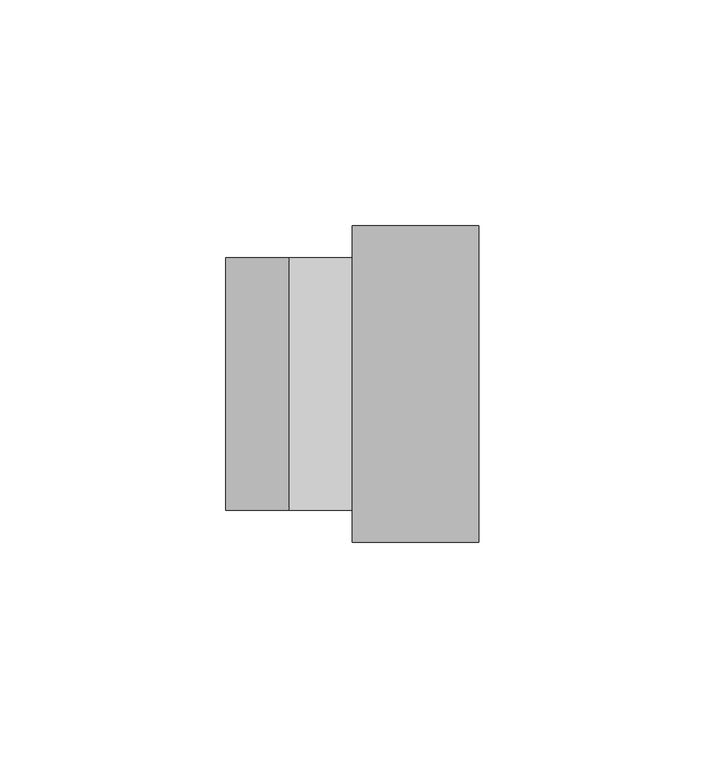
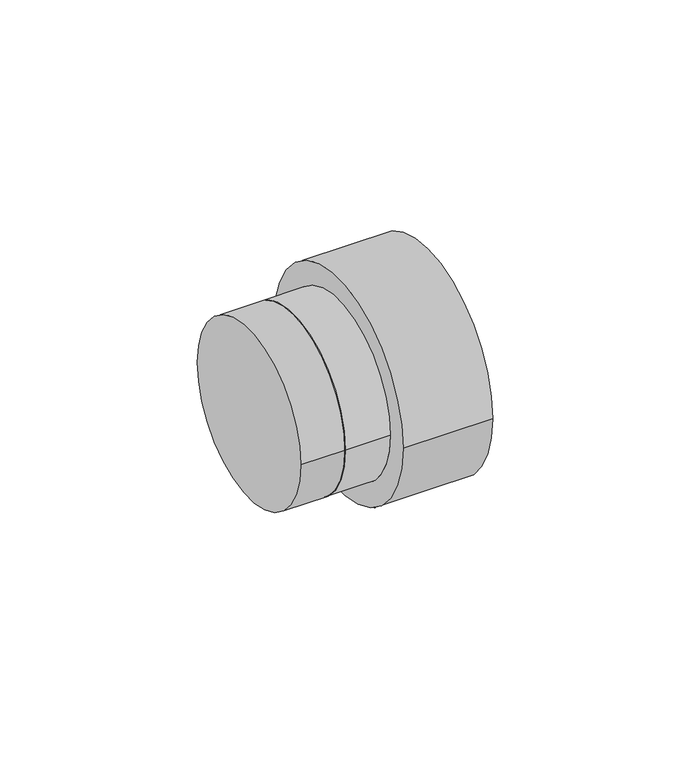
"""IFC4 building model written with IfcOpenShell, lengths in millimetres: pipe fitting geometry, NLRS_52_PIF_UN_PE schroefdraadstuk met klemkoppeling_geb : DN30-100 / ø32-110."""

from ifc_helpers import new_model, si_unit, point, frame, origin, origin_2d, place, context, project, spatial, circle_curve, trimmed, segment, composite_curve, outline, extrude, source, transform, mapped, element, save


def pipe_fitting_3a0e395e(model_context):
    return source(origin(), model_context, "Body", "SweptSolid", [
        extrude(outline(composite_curve([segment(trimmed(circle_curve(origin_2d(), 28.0), [point((28.0, 0.0))], [point((-28.0, 0.0))], False, "CARTESIAN"), True, "CONTINUOUS"), segment(trimmed(circle_curve(origin_2d(), 28.0), [point((-28.0, 0.0))], [point((28.0, 0.0))], False, "CARTESIAN"), True, "CONTINUOUS")], self_intersect=False)), frame((-14.0, 0.0, 0.0), z_axis=(1.0, 0.0, 0.0), x_axis=(0.0, 1.0, 0.0)), (0.0, 0.0, 1.0), 14.0),
        extrude(outline(composite_curve([segment(trimmed(circle_curve(origin_2d(), 28.0), [point((28.0, 0.0))], [point((-28.0, 0.0))], False, "CARTESIAN"), True, "CONTINUOUS"), segment(trimmed(circle_curve(origin_2d(), 28.0), [point((-28.0, 0.0))], [point((28.0, 0.0))], False, "CARTESIAN"), True, "CONTINUOUS")], self_intersect=False)), frame((-28.0, 0.0, 0.0), z_axis=(1.0, 0.0, 0.0), x_axis=(0.0, 1.0, 0.0)), (0.0, 0.0, 1.0), 14.0),
        extrude(outline(composite_curve([segment(trimmed(circle_curve(origin_2d(), 35.0), [point((35.0, 0.0))], [point((-35.0, 0.0))], False, "CARTESIAN"), True, "CONTINUOUS"), segment(trimmed(circle_curve(origin_2d(), 35.0), [point((-35.0, 0.0))], [point((35.0, 0.0))], False, "CARTESIAN"), True, "CONTINUOUS")], self_intersect=False), holes=[composite_curve([segment(trimmed(circle_curve(origin_2d(), 28.0), [point((28.0, 0.0))], [point((-28.0, 0.0))], True, "CARTESIAN"), True, "CONTINUOUS"), segment(trimmed(circle_curve(origin_2d(), 28.0), [point((-28.0, 0.0))], [point((28.0, 0.0))], True, "CARTESIAN"), True, "CONTINUOUS")], self_intersect=False)]), frame((0.0, 0.0, 0.0), z_axis=(1.0, 0.0, 0.0), x_axis=(0.0, 1.0, 0.0)), (0.0, 0.0, 1.0), 28.0),
    ])


if __name__ == "__main__":
    model = new_model("IFC4")
    model_context = context("Model", 3, world=origin())
    ifc_project = project(units=[si_unit("LENGTHUNIT", "METRE", prefix="MILLI")], contexts=[model_context])
    site = spatial("IfcSite", under=ifc_project)
    building = spatial("IfcBuilding", under=site)
    placement = place(None, origin())
    pipe_fitting_shape = pipe_fitting_3a0e395e(model_context)
    element("IfcPipeFitting", 1, ObjectType="NLRS_52_PIF_UN_PE schroefdraadstuk met klemkoppeling_geb : DN30-100 / ø32-110", at=placement, inside=building, context=model_context, shape_type="MappedRepresentation", body=[
        mapped(pipe_fitting_shape, transform((0.0, 0.0, 0.0), x_axis=(1.0, 0.0, 0.0), y_axis=(0.0, 1.0, 0.0), z_axis=(0.0, 0.0, 1.0))),
    ])
    save(model, "model.ifc")
